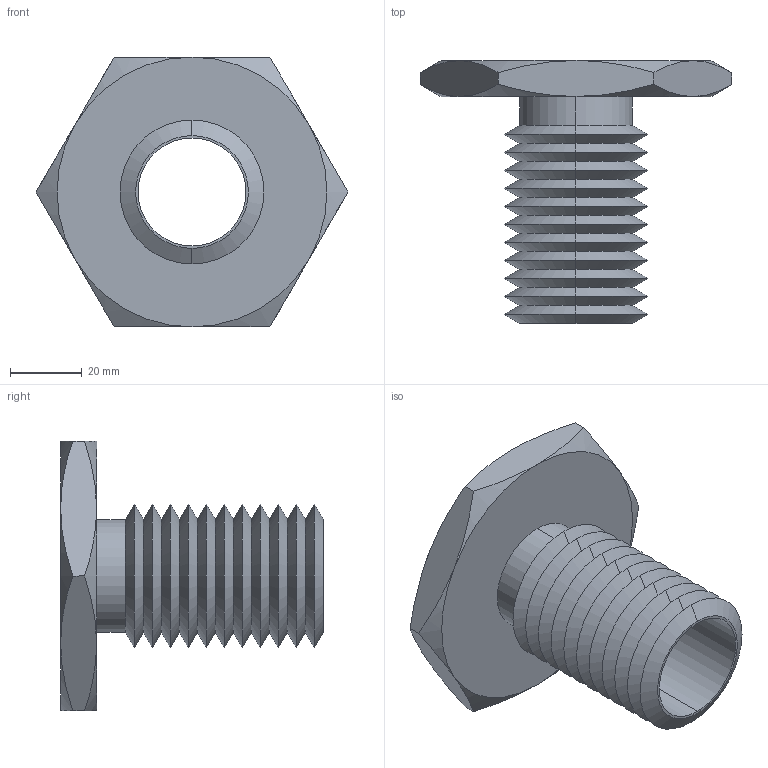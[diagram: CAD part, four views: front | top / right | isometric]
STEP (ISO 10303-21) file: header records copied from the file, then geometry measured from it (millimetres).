
FILE_DESCRIPTION (( 'STEP AP203' ), '1' );
FILE_NAME ('63302.W0042_M30x3,5.step', '2013-12-08T11:14:41', ( 'User' ), ( '' ), 'SwSTEP 2.0', 'SolidWorks 2009', '' );
FILE_SCHEMA (( 'CONFIG_CONTROL_DESIGN' ));
Length unit declared in the file: millimetre
Products named in the file (1): 63302.W0042_M30x3,5
Bounding box: 86.6 x 73 x 75 mm (x, y, z)
Volume: 56977 mm3; surface area: 30287.5 mm2
Topology: 1 solids, 1 shells, 71 faces, 146 edges, 78 vertices
Faces by surface type: cone 58, plane 9, cylinder 4
Entity records: 2039 total; most frequent: CARTESIAN_POINT 480, DIRECTION 332, ORIENTED_EDGE 292, EDGE_CURVE 146, AXIS2_PLACEMENT_3D 138, VERTEX_POINT 78, EDGE_LOOP 74, ADVANCED_FACE 71
